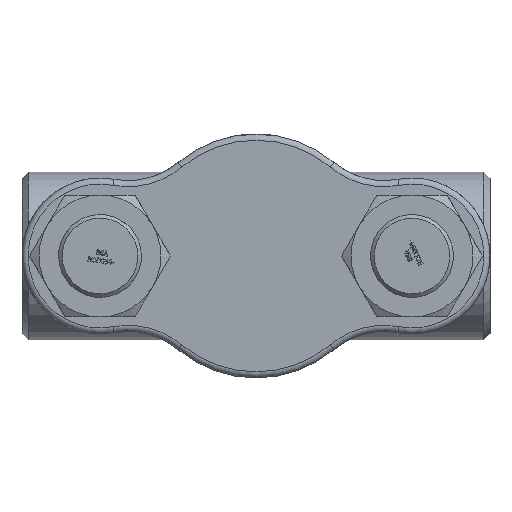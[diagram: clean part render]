
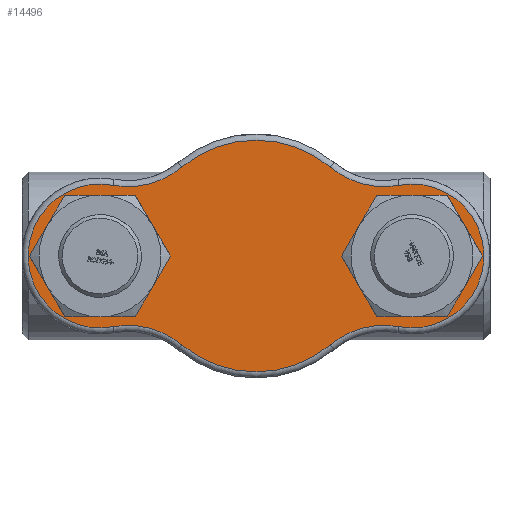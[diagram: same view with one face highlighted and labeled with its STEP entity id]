
A CAD part, front view. The second image highlights one B-rep face of the part: STEP entity #14496.
In plain terms, the highlighted planar face has unit normal (0, -1, 0) as drawn and (0, 0, -1) by its records, which use the part's own axes.
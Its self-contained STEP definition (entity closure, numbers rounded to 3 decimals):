
#3790=PLANE('',#15437);
#4197=FACE_BOUND('',#5148,.T.);
#4198=FACE_BOUND('',#5149,.T.);
#4295=FACE_OUTER_BOUND('',#5147,.T.);
#5147=EDGE_LOOP('',(#10003,#10004,#10005,#10006,#10007,#10008,#10009,#10010));
#5148=EDGE_LOOP('',(#10011));
#5149=EDGE_LOOP('',(#10012));
#6095=CIRCLE('',#15436,40.5);
#6096=CIRCLE('',#15438,59.);
#6097=CIRCLE('',#15439,69.);
#6098=CIRCLE('',#15440,95.);
#6099=CIRCLE('',#15441,69.);
#6100=CIRCLE('',#15442,59.);
#6101=CIRCLE('',#15443,69.);
#6102=CIRCLE('',#15444,95.);
#6103=CIRCLE('',#15445,69.);
#6104=CIRCLE('',#15446,40.5);
#6283=VERTEX_POINT('',#18890);
#6284=VERTEX_POINT('',#18893);
#6285=VERTEX_POINT('',#18894);
#6286=VERTEX_POINT('',#18896);
#6287=VERTEX_POINT('',#18898);
#6288=VERTEX_POINT('',#18900);
#6289=VERTEX_POINT('',#18902);
#6290=VERTEX_POINT('',#18904);
#6291=VERTEX_POINT('',#18906);
#6292=VERTEX_POINT('',#18909);
#7765=EDGE_CURVE('',#6283,#6283,#6095,.T.);
#7766=EDGE_CURVE('',#6284,#6285,#6096,.T.);
#7767=EDGE_CURVE('',#6286,#6284,#6097,.T.);
#7768=EDGE_CURVE('',#6287,#6286,#6098,.T.);
#7769=EDGE_CURVE('',#6288,#6287,#6099,.T.);
#7770=EDGE_CURVE('',#6289,#6288,#6100,.T.);
#7771=EDGE_CURVE('',#6290,#6289,#6101,.T.);
#7772=EDGE_CURVE('',#6291,#6290,#6102,.T.);
#7773=EDGE_CURVE('',#6285,#6291,#6103,.T.);
#7774=EDGE_CURVE('',#6292,#6292,#6104,.T.);
#10003=ORIENTED_EDGE('',*,*,#7766,.F.);
#10004=ORIENTED_EDGE('',*,*,#7767,.F.);
#10005=ORIENTED_EDGE('',*,*,#7768,.F.);
#10006=ORIENTED_EDGE('',*,*,#7769,.F.);
#10007=ORIENTED_EDGE('',*,*,#7770,.F.);
#10008=ORIENTED_EDGE('',*,*,#7771,.F.);
#10009=ORIENTED_EDGE('',*,*,#7772,.F.);
#10010=ORIENTED_EDGE('',*,*,#7773,.F.);
#10011=ORIENTED_EDGE('',*,*,#7774,.F.);
#10012=ORIENTED_EDGE('',*,*,#7765,.F.);
#14496=ADVANCED_FACE('',(#4295,#4197,#4198),#3790,.F.);
#15436=AXIS2_PLACEMENT_3D('',#18891,#16172,#16173);
#15437=AXIS2_PLACEMENT_3D('',#18892,#16174,#16175);
#15438=AXIS2_PLACEMENT_3D('',#18895,#16176,#16177);
#15439=AXIS2_PLACEMENT_3D('',#18897,#16178,#16179);
#15440=AXIS2_PLACEMENT_3D('',#18899,#16180,#16181);
#15441=AXIS2_PLACEMENT_3D('',#18901,#16182,#16183);
#15442=AXIS2_PLACEMENT_3D('',#18903,#16184,#16185);
#15443=AXIS2_PLACEMENT_3D('',#18905,#16186,#16187);
#15444=AXIS2_PLACEMENT_3D('',#18907,#16188,#16189);
#15445=AXIS2_PLACEMENT_3D('',#18908,#16190,#16191);
#15446=AXIS2_PLACEMENT_3D('',#18910,#16192,#16193);
#16172=DIRECTION('center_axis',(0.,0.,-1.));
#16173=DIRECTION('ref_axis',(1.,0.,0.));
#16174=DIRECTION('center_axis',(0.,0.,1.));
#16175=DIRECTION('ref_axis',(1.,0.,0.));
#16176=DIRECTION('center_axis',(0.,0.,1.));
#16177=DIRECTION('ref_axis',(-1.,0.,0.));
#16178=DIRECTION('center_axis',(0.,0.,-1.));
#16179=DIRECTION('ref_axis',(0.255,-0.967,0.));
#16180=DIRECTION('center_axis',(0.,0.,1.));
#16181=DIRECTION('ref_axis',(0.,1.,0.));
#16182=DIRECTION('center_axis',(0.,0.,-1.));
#16183=DIRECTION('ref_axis',(-0.255,-0.967,0.));
#16184=DIRECTION('center_axis',(0.,0.,1.));
#16185=DIRECTION('ref_axis',(1.,0.,0.));
#16186=DIRECTION('center_axis',(0.,0.,-1.));
#16187=DIRECTION('ref_axis',(-0.255,0.967,0.));
#16188=DIRECTION('center_axis',(0.,0.,1.));
#16189=DIRECTION('ref_axis',(0.,-1.,0.));
#16190=DIRECTION('center_axis',(0.,0.,-1.));
#16191=DIRECTION('ref_axis',(0.255,0.967,0.));
#16192=DIRECTION('center_axis',(0.,0.,-1.));
#16193=DIRECTION('ref_axis',(1.,0.,0.));
#18890=CARTESIAN_POINT('',(87.5,0.,0.));
#18891=CARTESIAN_POINT('Origin',(128.,0.,0.));
#18892=CARTESIAN_POINT('Origin',(0.,0.,0.));
#18893=CARTESIAN_POINT('',(-117.427,58.045,0.));
#18894=CARTESIAN_POINT('',(-117.427,-58.045,0.));
#18895=CARTESIAN_POINT('Origin',(-128.,0.,0.));
#18896=CARTESIAN_POINT('',(-60.859,72.946,0.));
#18897=CARTESIAN_POINT('Origin',(-105.063,125.928,0.));
#18898=CARTESIAN_POINT('',(60.859,72.946,0.));
#18899=CARTESIAN_POINT('Origin',(0.,0.,0.));
#18900=CARTESIAN_POINT('',(117.427,58.045,0.));
#18901=CARTESIAN_POINT('Origin',(105.063,125.928,0.));
#18902=CARTESIAN_POINT('',(117.427,-58.045,0.));
#18903=CARTESIAN_POINT('Origin',(128.,0.,0.));
#18904=CARTESIAN_POINT('',(60.859,-72.946,0.));
#18905=CARTESIAN_POINT('Origin',(105.063,-125.928,0.));
#18906=CARTESIAN_POINT('',(-60.859,-72.946,0.));
#18907=CARTESIAN_POINT('Origin',(0.,0.,0.));
#18908=CARTESIAN_POINT('Origin',(-105.063,-125.928,0.));
#18909=CARTESIAN_POINT('',(-168.5,0.,0.));
#18910=CARTESIAN_POINT('Origin',(-128.,0.,0.));
